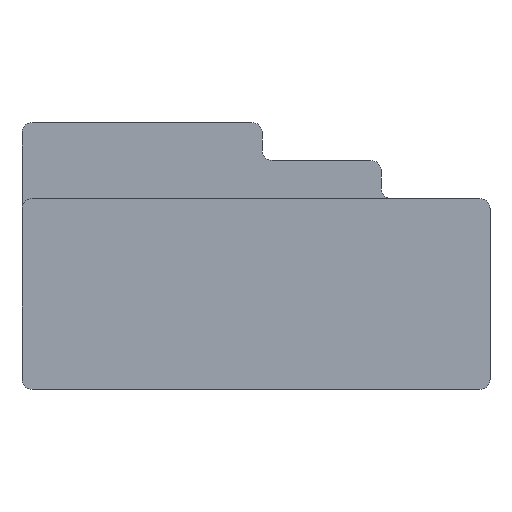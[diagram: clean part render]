
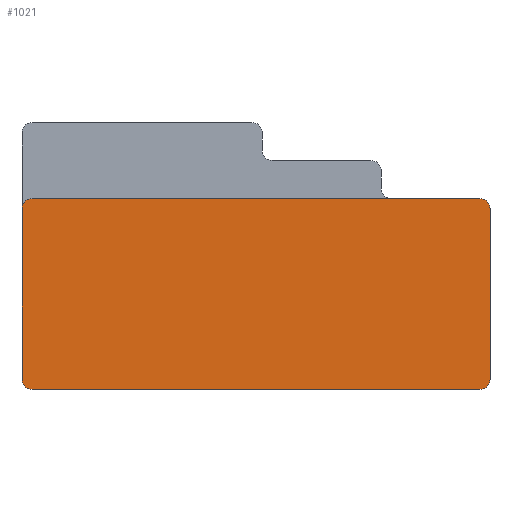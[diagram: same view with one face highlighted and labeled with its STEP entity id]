
A CAD part, front view. The second image highlights one B-rep face of the part: STEP entity #1021.
In plain terms, the highlighted planar face has unit normal (0, -1, 0).
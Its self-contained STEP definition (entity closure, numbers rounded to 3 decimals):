
#180=CARTESIAN_POINT('',(-10.9,-11.6,8.8));
#181=DIRECTION('',(0.,-1.,0.));
#182=DIRECTION('',(0.,0.,1.));
#183=AXIS2_PLACEMENT_3D('',#180,#181,#182);
#185=CARTESIAN_POINT('',(10.9,-11.6,8.8));
#186=DIRECTION('',(0.,-1.,0.));
#187=DIRECTION('',(1.,0.,0.));
#188=AXIS2_PLACEMENT_3D('',#185,#186,#187);
#190=CARTESIAN_POINT('',(10.9,-11.6,0.5));
#191=DIRECTION('',(0.,-1.,0.));
#192=DIRECTION('',(0.,0.,-1.));
#193=AXIS2_PLACEMENT_3D('',#190,#191,#192);
#195=CARTESIAN_POINT('',(-10.9,-11.6,0.5));
#196=DIRECTION('',(0.,-1.,0.));
#197=DIRECTION('',(-1.,0.,0.));
#198=AXIS2_PLACEMENT_3D('',#195,#196,#197);
#200=DIRECTION('',(0.,0.,1.));
#201=VECTOR('',#200,8.3);
#202=CARTESIAN_POINT('',(-11.4,-11.6,0.5));
#203=LINE('',#202,#201);
#288=DIRECTION('',(1.,0.,0.));
#289=VECTOR('',#288,21.8);
#290=CARTESIAN_POINT('',(-10.9,-11.6,9.3));
#291=LINE('',#290,#289);
#480=DIRECTION('',(1.,0.,0.));
#481=VECTOR('',#480,21.8);
#482=CARTESIAN_POINT('',(-10.9,-11.6,0.));
#483=LINE('',#482,#481);
#550=DIRECTION('',(0.,0.,1.));
#551=VECTOR('',#550,8.3);
#552=CARTESIAN_POINT('',(11.4,-11.6,0.5));
#553=LINE('',#552,#551);
#660=CARTESIAN_POINT('',(-10.9,-11.6,9.3));
#661=CARTESIAN_POINT('',(-11.4,-11.6,8.8));
#662=VERTEX_POINT('',#660);
#663=VERTEX_POINT('',#661);
#688=CARTESIAN_POINT('',(11.4,-11.6,8.8));
#689=VERTEX_POINT('',#688);
#690=CARTESIAN_POINT('',(10.9,-11.6,9.3));
#691=VERTEX_POINT('',#690);
#692=CARTESIAN_POINT('',(10.9,-11.6,0.));
#693=CARTESIAN_POINT('',(11.4,-11.6,0.5));
#694=VERTEX_POINT('',#692);
#695=VERTEX_POINT('',#693);
#704=CARTESIAN_POINT('',(-11.4,-11.6,0.5));
#705=VERTEX_POINT('',#704);
#706=CARTESIAN_POINT('',(-10.9,-11.6,0.));
#707=VERTEX_POINT('',#706);
#999=CARTESIAN_POINT('',(-11.4,-11.6,0.));
#1000=DIRECTION('',(0.,-1.,0.));
#1001=DIRECTION('',(1.,0.,0.));
#1002=AXIS2_PLACEMENT_3D('',#999,#1000,#1001);
#1003=PLANE('',#1002);
#1005=ORIENTED_EDGE('',*,*,#1004,.F.);
#1007=ORIENTED_EDGE('',*,*,#1006,.T.);
#1009=ORIENTED_EDGE('',*,*,#1008,.F.);
#1011=ORIENTED_EDGE('',*,*,#1010,.F.);
#1012=ORIENTED_EDGE('',*,*,#989,.F.);
#1014=ORIENTED_EDGE('',*,*,#1013,.F.);
#1016=ORIENTED_EDGE('',*,*,#1015,.F.);
#1018=ORIENTED_EDGE('',*,*,#1017,.T.);
#1019=EDGE_LOOP('',(#1005,#1007,#1009,#1011,#1012,#1014,#1016,#1018));
#1020=FACE_OUTER_BOUND('',#1019,.F.);
#1021=ADVANCED_FACE('',(#1020),#1003,.T.);
#184=CIRCLE('',#183,0.5);
#189=CIRCLE('',#188,0.5);
#194=CIRCLE('',#193,0.5);
#199=CIRCLE('',#198,0.5);
#989=EDGE_CURVE('',#694,#695,#194,.T.);
#1004=EDGE_CURVE('',#662,#663,#184,.T.);
#1006=EDGE_CURVE('',#662,#691,#291,.T.);
#1008=EDGE_CURVE('',#689,#691,#189,.T.);
#1010=EDGE_CURVE('',#695,#689,#553,.T.);
#1013=EDGE_CURVE('',#707,#694,#483,.T.);
#1015=EDGE_CURVE('',#705,#707,#199,.T.);
#1017=EDGE_CURVE('',#705,#663,#203,.T.);
